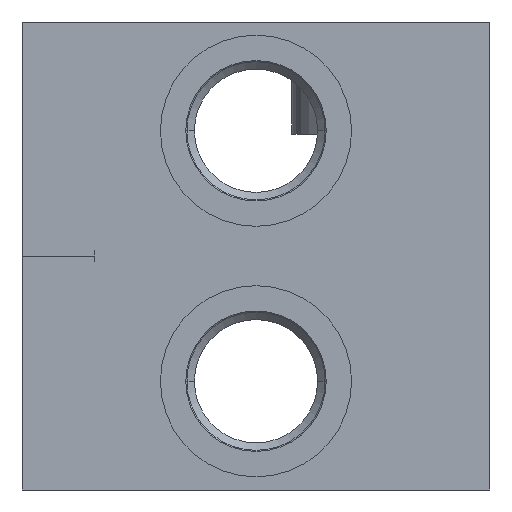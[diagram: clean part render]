
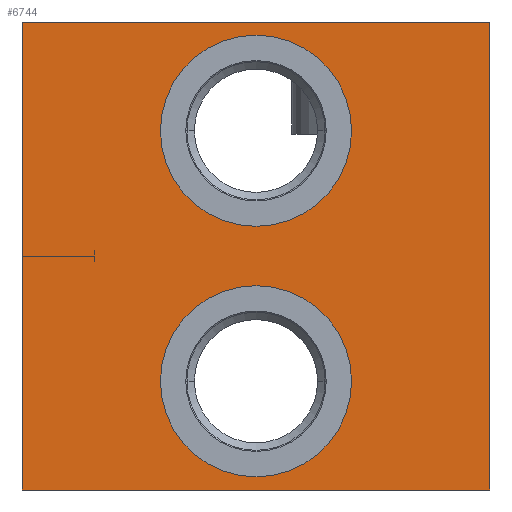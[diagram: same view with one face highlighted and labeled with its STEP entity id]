
A CAD part, left-side view. The second image highlights one B-rep face of the part: STEP entity #6744.
In plain terms, the highlighted planar face has unit normal (-1, 0, 0).
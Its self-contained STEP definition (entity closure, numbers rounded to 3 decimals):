
#30=DIRECTION('',(0.,-1.,0.));
#31=VECTOR('',#30,71.);
#32=CARTESIAN_POINT('',(0.,71.,0.));
#33=LINE('',#32,#31);
#227=DIRECTION('',(0.,0.,-1.));
#228=VECTOR('',#227,71.);
#229=CARTESIAN_POINT('',(0.,0.,0.));
#230=LINE('',#229,#228);
#1440=DIRECTION('',(0.,0.,-1.));
#1441=VECTOR('',#1440,71.);
#1442=CARTESIAN_POINT('',(0.,71.,0.));
#1443=LINE('',#1442,#1441);
#1447=CARTESIAN_POINT('',(0.,35.5,-54.5));
#1448=DIRECTION('',(1.,0.,0.));
#1449=DIRECTION('',(0.,-1.,0.));
#1450=AXIS2_PLACEMENT_3D('',#1447,#1448,#1449);
#1455=CARTESIAN_POINT('',(0.,35.5,-54.5));
#1456=DIRECTION('',(1.,0.,0.));
#1457=DIRECTION('',(0.,1.,0.));
#1458=AXIS2_PLACEMENT_3D('',#1455,#1456,#1457);
#1463=CARTESIAN_POINT('',(0.,35.5,-16.5));
#1464=DIRECTION('',(1.,0.,0.));
#1465=DIRECTION('',(0.,-1.,0.));
#1466=AXIS2_PLACEMENT_3D('',#1463,#1464,#1465);
#1471=CARTESIAN_POINT('',(0.,35.5,-16.5));
#1472=DIRECTION('',(1.,0.,0.));
#1473=DIRECTION('',(0.,1.,0.));
#1474=AXIS2_PLACEMENT_3D('',#1471,#1472,#1473);
#1500=DIRECTION('',(0.,-1.,0.));
#1501=VECTOR('',#1500,71.);
#1502=CARTESIAN_POINT('',(0.,71.,-71.));
#1503=LINE('',#1502,#1501);
#5627=CARTESIAN_POINT('',(0.,0.,0.));
#5629=VERTEX_POINT('',#5627);
#5633=CARTESIAN_POINT('',(0.,71.,0.));
#5634=VERTEX_POINT('',#5633);
#5635=CARTESIAN_POINT('',(0.,0.,-71.));
#5637=VERTEX_POINT('',#5635);
#5641=CARTESIAN_POINT('',(0.,71.,-71.));
#5642=VERTEX_POINT('',#5641);
#5671=CARTESIAN_POINT('',(0.,21.,-54.5));
#5672=CARTESIAN_POINT('',(0.,50.,-54.5));
#5673=VERTEX_POINT('',#5671);
#5674=VERTEX_POINT('',#5672);
#5687=CARTESIAN_POINT('',(0.,21.,-16.5));
#5688=CARTESIAN_POINT('',(0.,50.,-16.5));
#5689=VERTEX_POINT('',#5687);
#5690=VERTEX_POINT('',#5688);
#6720=CARTESIAN_POINT('',(0.,71.,0.));
#6721=DIRECTION('',(-1.,0.,0.));
#6722=DIRECTION('',(0.,-1.,0.));
#6723=AXIS2_PLACEMENT_3D('',#6720,#6721,#6722);
#6724=PLANE('',#6723);
#6725=ORIENTED_EDGE('',*,*,#6316,.T.);
#6726=ORIENTED_EDGE('',*,*,#6408,.T.);
#6728=ORIENTED_EDGE('',*,*,#6727,.F.);
#6729=ORIENTED_EDGE('',*,*,#6495,.F.);
#6730=EDGE_LOOP('',(#6725,#6726,#6728,#6729));
#6731=FACE_OUTER_BOUND('',#6730,.F.);
#6733=ORIENTED_EDGE('',*,*,#6732,.F.);
#6735=ORIENTED_EDGE('',*,*,#6734,.F.);
#6736=EDGE_LOOP('',(#6733,#6735));
#6737=FACE_BOUND('',#6736,.F.);
#6739=ORIENTED_EDGE('',*,*,#6738,.F.);
#6741=ORIENTED_EDGE('',*,*,#6740,.F.);
#6742=EDGE_LOOP('',(#6739,#6741));
#6743=FACE_BOUND('',#6742,.F.);
#1451=CIRCLE('',#1450,14.5);
#1459=CIRCLE('',#1458,14.5);
#1467=CIRCLE('',#1466,14.5);
#1475=CIRCLE('',#1474,14.5);
#6316=EDGE_CURVE('',#5634,#5629,#33,.T.);
#6408=EDGE_CURVE('',#5629,#5637,#230,.T.);
#6495=EDGE_CURVE('',#5634,#5642,#1443,.T.);
#6727=EDGE_CURVE('',#5642,#5637,#1503,.T.);
#6732=EDGE_CURVE('',#5673,#5674,#1451,.T.);
#6734=EDGE_CURVE('',#5674,#5673,#1459,.T.);
#6738=EDGE_CURVE('',#5689,#5690,#1467,.T.);
#6740=EDGE_CURVE('',#5690,#5689,#1475,.T.);
#6744=ADVANCED_FACE('',(#6731,#6737,#6743),#6724,.T.);
